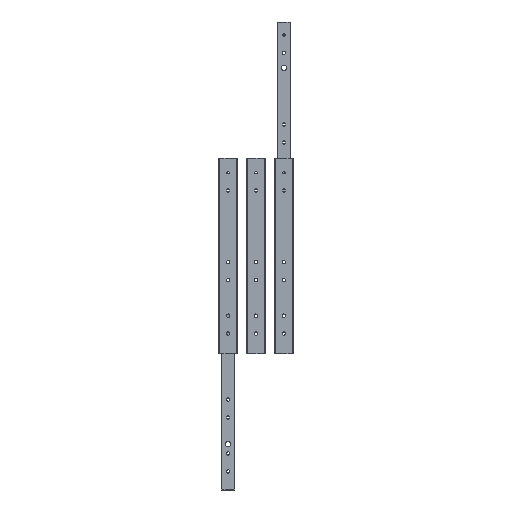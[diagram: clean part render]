
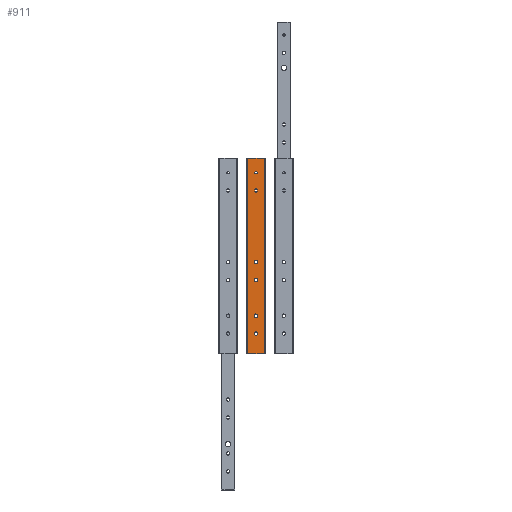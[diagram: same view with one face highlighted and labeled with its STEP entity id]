
A CAD part, left-side view. The second image highlights one B-rep face of the part: STEP entity #911.
In plain terms, the highlighted planar face has unit normal (-1, 0, 0).
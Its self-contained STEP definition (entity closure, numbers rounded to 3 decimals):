
#114=CARTESIAN_POINT('',(-4.854,2.15,34.9));
#115=VERTEX_POINT('',#114);
#130=CARTESIAN_POINT('',(-4.854,2.15,37.1));
#131=VERTEX_POINT('',#130);
#138=CARTESIAN_POINT('',(-4.854,2.15,34.9));
#139=DIRECTION('',(0.0,0.0,1.0));
#140=VECTOR('',#139,2.2);
#141=LINE('',#138,#140);
#142=EDGE_CURVE('',#115,#131,#141,.T.);
#162=CARTESIAN_POINT('',(-4.854,-2.15,34.9));
#163=VERTEX_POINT('',#162);
#164=CARTESIAN_POINT('',(-4.854,0.,34.9));
#165=DIRECTION('',(-1.0,0.0,0.0));
#166=DIRECTION('',(0.0,0.707,-0.707));
#167=AXIS2_PLACEMENT_3D('',#164,#165,#166);
#168=CIRCLE('',#167,2.15);
#169=EDGE_CURVE('',#115,#163,#168,.T.);
#194=CARTESIAN_POINT('',(-4.854,-2.15,37.1));
#195=VERTEX_POINT('',#194);
#202=CARTESIAN_POINT('',(-4.854,0.,37.1));
#203=DIRECTION('',(-1.0,0.0,0.0));
#204=DIRECTION('',(0.0,-0.707,0.707));
#205=AXIS2_PLACEMENT_3D('',#202,#203,#204);
#206=CIRCLE('',#205,2.15);
#207=EDGE_CURVE('',#195,#131,#206,.T.);
#219=CARTESIAN_POINT('',(-4.854,-2.15,37.1));
#220=DIRECTION('',(0.0,0.0,-1.0));
#221=VECTOR('',#220,2.2);
#222=LINE('',#219,#221);
#223=EDGE_CURVE('',#195,#163,#222,.T.);
#251=CARTESIAN_POINT('',(-4.854,2.15,66.9));
#252=VERTEX_POINT('',#251);
#259=CARTESIAN_POINT('',(-4.854,-2.15,66.9));
#260=VERTEX_POINT('',#259);
#261=CARTESIAN_POINT('',(-4.854,0.,66.9));
#262=DIRECTION('',(-1.0,0.0,0.0));
#263=DIRECTION('',(0.0,0.707,-0.707));
#264=AXIS2_PLACEMENT_3D('',#261,#262,#263);
#265=CIRCLE('',#264,2.15);
#266=EDGE_CURVE('',#252,#260,#265,.T.);
#291=CARTESIAN_POINT('',(-4.854,2.15,69.1));
#292=VERTEX_POINT('',#291);
#299=CARTESIAN_POINT('',(-4.854,2.15,66.9));
#300=DIRECTION('',(0.0,0.0,1.0));
#301=VECTOR('',#300,2.2);
#302=LINE('',#299,#301);
#303=EDGE_CURVE('',#252,#292,#302,.T.);
#322=CARTESIAN_POINT('',(-4.854,-2.15,69.1));
#323=VERTEX_POINT('',#322);
#330=CARTESIAN_POINT('',(-4.854,0.,69.1));
#331=DIRECTION('',(-1.0,0.0,0.0));
#332=DIRECTION('',(0.0,-0.707,0.707));
#333=AXIS2_PLACEMENT_3D('',#330,#331,#332);
#334=CIRCLE('',#333,2.15);
#335=EDGE_CURVE('',#323,#292,#334,.T.);
#347=CARTESIAN_POINT('',(-4.854,-2.15,69.1));
#348=DIRECTION('',(0.0,0.0,-1.0));
#349=VECTOR('',#348,2.2);
#350=LINE('',#347,#349);
#351=EDGE_CURVE('',#323,#260,#350,.T.);
#379=CARTESIAN_POINT('',(-4.854,2.15,130.9));
#380=VERTEX_POINT('',#379);
#387=CARTESIAN_POINT('',(-4.854,-2.15,130.9));
#388=VERTEX_POINT('',#387);
#389=CARTESIAN_POINT('',(-4.854,0.,130.9));
#390=DIRECTION('',(-1.0,0.0,0.0));
#391=DIRECTION('',(0.0,0.707,-0.707));
#392=AXIS2_PLACEMENT_3D('',#389,#390,#391);
#393=CIRCLE('',#392,2.15);
#394=EDGE_CURVE('',#380,#388,#393,.T.);
#419=CARTESIAN_POINT('',(-4.854,2.15,133.1));
#420=VERTEX_POINT('',#419);
#427=CARTESIAN_POINT('',(-4.854,2.15,130.9));
#428=DIRECTION('',(0.0,0.0,1.0));
#429=VECTOR('',#428,2.2);
#430=LINE('',#427,#429);
#431=EDGE_CURVE('',#380,#420,#430,.T.);
#450=CARTESIAN_POINT('',(-4.854,-2.15,133.1));
#451=VERTEX_POINT('',#450);
#458=CARTESIAN_POINT('',(-4.854,0.,133.1));
#459=DIRECTION('',(-1.0,0.0,0.0));
#460=DIRECTION('',(0.0,-0.707,0.707));
#461=AXIS2_PLACEMENT_3D('',#458,#459,#460);
#462=CIRCLE('',#461,2.15);
#463=EDGE_CURVE('',#451,#420,#462,.T.);
#475=CARTESIAN_POINT('',(-4.854,-2.15,133.1));
#476=DIRECTION('',(0.0,0.0,-1.0));
#477=VECTOR('',#476,2.2);
#478=LINE('',#475,#477);
#479=EDGE_CURVE('',#451,#388,#478,.T.);
#498=CARTESIAN_POINT('',(-4.854,2.15,162.9));
#499=VERTEX_POINT('',#498);
#514=CARTESIAN_POINT('',(-4.854,2.15,165.1));
#515=VERTEX_POINT('',#514);
#522=CARTESIAN_POINT('',(-4.854,2.15,162.9));
#523=DIRECTION('',(0.0,0.0,1.0));
#524=VECTOR('',#523,2.2);
#525=LINE('',#522,#524);
#526=EDGE_CURVE('',#499,#515,#525,.T.);
#546=CARTESIAN_POINT('',(-4.854,-2.15,162.9));
#547=VERTEX_POINT('',#546);
#548=CARTESIAN_POINT('',(-4.854,0.,162.9));
#549=DIRECTION('',(-1.0,0.0,0.0));
#550=DIRECTION('',(0.0,0.707,-0.707));
#551=AXIS2_PLACEMENT_3D('',#548,#549,#550);
#552=CIRCLE('',#551,2.15);
#553=EDGE_CURVE('',#499,#547,#552,.T.);
#570=CARTESIAN_POINT('',(-4.854,-2.15,165.1));
#571=VERTEX_POINT('',#570);
#572=CARTESIAN_POINT('',(-4.854,-2.15,165.1));
#573=DIRECTION('',(0.0,0.0,-1.0));
#574=VECTOR('',#573,2.2);
#575=LINE('',#572,#574);
#576=EDGE_CURVE('',#571,#547,#575,.T.);
#608=CARTESIAN_POINT('',(-4.854,0.,165.1));
#609=DIRECTION('',(-1.0,0.0,0.0));
#610=DIRECTION('',(0.0,-0.707,0.707));
#611=AXIS2_PLACEMENT_3D('',#608,#609,#610);
#612=CIRCLE('',#611,2.15);
#613=EDGE_CURVE('',#571,#515,#612,.T.);
#626=CARTESIAN_POINT('',(-4.854,2.15,290.9));
#627=VERTEX_POINT('',#626);
#642=CARTESIAN_POINT('',(-4.854,2.15,293.1));
#643=VERTEX_POINT('',#642);
#650=CARTESIAN_POINT('',(-4.854,2.15,290.9));
#651=DIRECTION('',(0.0,0.0,1.0));
#652=VECTOR('',#651,2.2);
#653=LINE('',#650,#652);
#654=EDGE_CURVE('',#627,#643,#653,.T.);
#674=CARTESIAN_POINT('',(-4.854,-2.15,290.9));
#675=VERTEX_POINT('',#674);
#676=CARTESIAN_POINT('',(-4.854,0.,290.9));
#677=DIRECTION('',(-1.0,0.0,0.0));
#678=DIRECTION('',(0.0,0.707,-0.707));
#679=AXIS2_PLACEMENT_3D('',#676,#677,#678);
#680=CIRCLE('',#679,2.15);
#681=EDGE_CURVE('',#627,#675,#680,.T.);
#698=CARTESIAN_POINT('',(-4.854,-2.15,293.1));
#699=VERTEX_POINT('',#698);
#700=CARTESIAN_POINT('',(-4.854,-2.15,293.1));
#701=DIRECTION('',(0.0,0.0,-1.0));
#702=VECTOR('',#701,2.2);
#703=LINE('',#700,#702);
#704=EDGE_CURVE('',#699,#675,#703,.T.);
#736=CARTESIAN_POINT('',(-4.854,0.,293.1));
#737=DIRECTION('',(-1.0,0.0,0.0));
#738=DIRECTION('',(0.0,-0.707,0.707));
#739=AXIS2_PLACEMENT_3D('',#736,#737,#738);
#740=CIRCLE('',#739,2.15);
#741=EDGE_CURVE('',#699,#643,#740,.T.);
#752=CARTESIAN_POINT('',(-4.854,0.,326.15));
#753=VERTEX_POINT('',#752);
#754=CARTESIAN_POINT('',(-4.854,0.0,324.0));
#755=DIRECTION('',(1.0,0.0,0.0));
#756=DIRECTION('',(0.0,0.0,-1.0));
#757=AXIS2_PLACEMENT_3D('',#754,#755,#756);
#758=CIRCLE('',#757,2.15);
#759=EDGE_CURVE('',#753,#753,#758,.T.);
#822=CARTESIAN_POINT('',(-4.854,-14.5,350.0));
#823=VERTEX_POINT('',#822);
#830=CARTESIAN_POINT('',(-4.854,-14.5,0.0));
#831=VERTEX_POINT('',#830);
#832=CARTESIAN_POINT('',(-4.854,-14.5,0.0));
#833=DIRECTION('',(0.0,0.0,1.0));
#834=VECTOR('',#833,350.0);
#835=LINE('',#832,#834);
#836=EDGE_CURVE('',#831,#823,#835,.T.);
#848=CARTESIAN_POINT('',(-4.854,-14.5,0.0));
#849=DIRECTION('',(-1.0,0.0,0.0));
#850=DIRECTION('',(0.0,0.0,1.0));
#851=AXIS2_PLACEMENT_3D('',#848,#849,#850);
#852=PLANE('',#851);
#853=CARTESIAN_POINT('',(-4.854,14.5,350.0));
#854=VERTEX_POINT('',#853);
#855=CARTESIAN_POINT('',(-4.854,-14.5,350.0));
#856=DIRECTION('',(0.0,1.0,0.0));
#857=VECTOR('',#856,29.);
#858=LINE('',#855,#857);
#859=EDGE_CURVE('',#823,#854,#858,.T.);
#860=ORIENTED_EDGE('',*,*,#859,.T.);
#861=CARTESIAN_POINT('',(-4.854,14.5,0.0));
#862=VERTEX_POINT('',#861);
#863=CARTESIAN_POINT('',(-4.854,14.5,0.0));
#864=DIRECTION('',(0.0,0.0,1.0));
#865=VECTOR('',#864,350.0);
#866=LINE('',#863,#865);
#867=EDGE_CURVE('',#862,#854,#866,.T.);
#868=ORIENTED_EDGE('',*,*,#867,.F.);
#869=CARTESIAN_POINT('',(-4.854,14.5,0.0));
#870=DIRECTION('',(0.0,-1.0,0.0));
#871=VECTOR('',#870,29.);
#872=LINE('',#869,#871);
#873=EDGE_CURVE('',#862,#831,#872,.T.);
#874=ORIENTED_EDGE('',*,*,#873,.T.);
#875=ORIENTED_EDGE('',*,*,#836,.T.);
#876=EDGE_LOOP('',(#860,#868,#874,#875));
#877=FACE_OUTER_BOUND('',#876,.T.);
#878=ORIENTED_EDGE('',*,*,#207,.F.);
#879=ORIENTED_EDGE('',*,*,#223,.T.);
#880=ORIENTED_EDGE('',*,*,#169,.F.);
#881=ORIENTED_EDGE('',*,*,#142,.T.);
#882=EDGE_LOOP('',(#878,#879,#880,#881));
#883=FACE_BOUND('',#882,.T.);
#884=ORIENTED_EDGE('',*,*,#335,.F.);
#885=ORIENTED_EDGE('',*,*,#351,.T.);
#886=ORIENTED_EDGE('',*,*,#266,.F.);
#887=ORIENTED_EDGE('',*,*,#303,.T.);
#888=EDGE_LOOP('',(#884,#885,#886,#887));
#889=FACE_BOUND('',#888,.T.);
#890=ORIENTED_EDGE('',*,*,#463,.F.);
#891=ORIENTED_EDGE('',*,*,#479,.T.);
#892=ORIENTED_EDGE('',*,*,#394,.F.);
#893=ORIENTED_EDGE('',*,*,#431,.T.);
#894=EDGE_LOOP('',(#890,#891,#892,#893));
#895=FACE_BOUND('',#894,.T.);
#896=ORIENTED_EDGE('',*,*,#576,.T.);
#897=ORIENTED_EDGE('',*,*,#553,.F.);
#898=ORIENTED_EDGE('',*,*,#526,.T.);
#899=ORIENTED_EDGE('',*,*,#613,.F.);
#900=EDGE_LOOP('',(#896,#897,#898,#899));
#901=FACE_BOUND('',#900,.T.);
#902=ORIENTED_EDGE('',*,*,#704,.T.);
#903=ORIENTED_EDGE('',*,*,#681,.F.);
#904=ORIENTED_EDGE('',*,*,#654,.T.);
#905=ORIENTED_EDGE('',*,*,#741,.F.);
#906=EDGE_LOOP('',(#902,#903,#904,#905));
#907=FACE_BOUND('',#906,.T.);
#908=ORIENTED_EDGE('',*,*,#759,.T.);
#909=EDGE_LOOP('',(#908));
#910=FACE_BOUND('',#909,.T.);
#911=ADVANCED_FACE('',(#877,#883,#889,#895,#901,#907,#910),#852,.T.);
